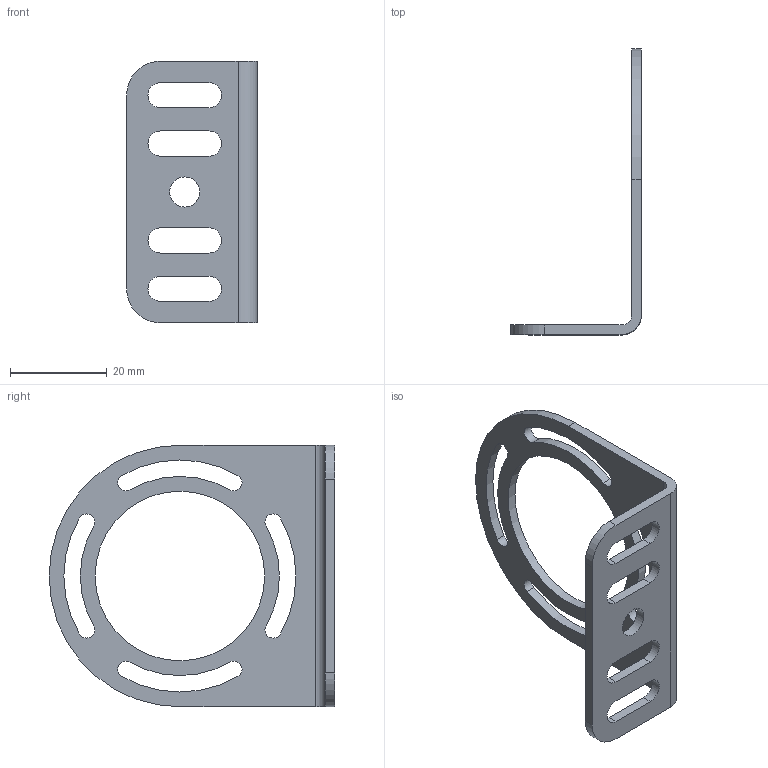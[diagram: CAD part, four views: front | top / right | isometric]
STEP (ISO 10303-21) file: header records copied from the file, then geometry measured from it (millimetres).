
FILE_DESCRIPTION(/* description */ (''),/* implementation_level */ '2;1');
FILE_NAME(/* name */ 'DSD-0785.stp',/* time_stamp */ '2016-08-29T17:54:26+02:00',/* author */ (''),/* organization */ (''),/* preprocessor_version */ 'ST-DEVELOPER v16',/* originating_system */ 'SIEMENS PLM Software NX 10.0',/* authorisation */ '');
FILE_SCHEMA (('AUTOMOTIVE_DESIGN { 1 0 10303 214 3 1 1 1 }'));
Length unit declared in the file: millimetre
Products named in the file (1): MP012204_01
Bounding box: 27 x 59 x 54 mm (x, y, z)
Volume: 4988.2 mm3; surface area: 6484.5 mm2
Topology: 1 solids, 1 shells, 46 faces, 132 edges, 88 vertices
Faces by surface type: cylinder 31, plane 15
Full cylindrical faces by diameter (mm): 6.2 x1, 35 x1
Entity records: 1592 total; most frequent: DIRECTION 286, CARTESIAN_POINT 265, ORIENTED_EDGE 260, EDGE_CURVE 130, AXIS2_PLACEMENT_3D 109, VERTEX_POINT 88, LINE 68, VECTOR 68
